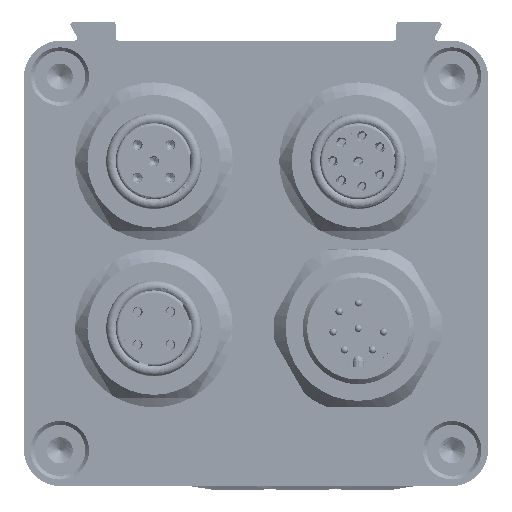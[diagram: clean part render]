
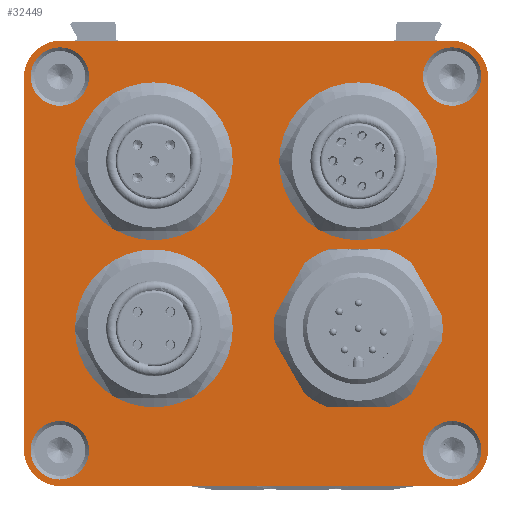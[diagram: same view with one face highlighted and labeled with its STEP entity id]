
A CAD part, front view. The second image highlights one B-rep face of the part: STEP entity #32449.
In plain terms, the highlighted planar face has unit normal (0, -1, 0).
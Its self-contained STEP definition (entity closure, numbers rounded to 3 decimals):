
#31689=CARTESIAN_POINT('',(21.,0.,-20.));
#31690=DIRECTION('',(0.,-1.,0.));
#31691=DIRECTION('',(0.,0.,-1.));
#31692=AXIS2_PLACEMENT_3D('',#31689,#31690,#31691);
#31697=DIRECTION('',(1.,0.,0.));
#31698=VECTOR('',#31697,42.);
#31699=CARTESIAN_POINT('',(-21.,0.,-24.));
#31700=LINE('',#31699,#31698);
#31704=CARTESIAN_POINT('',(-21.,0.,-20.));
#31705=DIRECTION('',(0.,-1.,0.));
#31706=DIRECTION('',(-1.,0.,0.));
#31707=AXIS2_PLACEMENT_3D('',#31704,#31705,#31706);
#31712=DIRECTION('',(0.,0.,-1.));
#31713=VECTOR('',#31712,40.);
#31714=CARTESIAN_POINT('',(-25.,0.,20.));
#31715=LINE('',#31714,#31713);
#31719=CARTESIAN_POINT('',(-21.,0.,20.));
#31720=DIRECTION('',(0.,-1.,0.));
#31721=DIRECTION('',(0.,0.,1.));
#31722=AXIS2_PLACEMENT_3D('',#31719,#31720,#31721);
#31727=CARTESIAN_POINT('',(21.,0.,20.));
#31728=DIRECTION('',(0.,-1.,0.));
#31729=DIRECTION('',(1.,0.,0.));
#31730=AXIS2_PLACEMENT_3D('',#31727,#31728,#31729);
#31735=CARTESIAN_POINT('',(-11.,0.,11.));
#31736=DIRECTION('',(0.,1.,0.));
#31737=DIRECTION('',(0.,0.,1.));
#31738=AXIS2_PLACEMENT_3D('',#31735,#31736,#31737);
#31743=CARTESIAN_POINT('',(-11.,0.,11.));
#31744=DIRECTION('',(0.,1.,0.));
#31745=DIRECTION('',(0.,0.,-1.));
#31746=AXIS2_PLACEMENT_3D('',#31743,#31744,#31745);
#31751=CARTESIAN_POINT('',(-11.,0.,-7.));
#31752=DIRECTION('',(0.,1.,0.));
#31753=DIRECTION('',(0.,0.,1.));
#31754=AXIS2_PLACEMENT_3D('',#31751,#31752,#31753);
#31759=CARTESIAN_POINT('',(-11.,0.,-7.));
#31760=DIRECTION('',(0.,1.,0.));
#31761=DIRECTION('',(0.,0.,-1.));
#31762=AXIS2_PLACEMENT_3D('',#31759,#31760,#31761);
#31767=CARTESIAN_POINT('',(-21.125,0.,20.125));
#31768=DIRECTION('',(0.,1.,0.));
#31769=DIRECTION('',(0.,0.,1.));
#31770=AXIS2_PLACEMENT_3D('',#31767,#31768,#31769);
#31775=CARTESIAN_POINT('',(-21.125,0.,20.125));
#31776=DIRECTION('',(0.,1.,0.));
#31777=DIRECTION('',(0.,0.,-1.));
#31778=AXIS2_PLACEMENT_3D('',#31775,#31776,#31777);
#31783=CARTESIAN_POINT('',(21.125,0.,20.125));
#31784=DIRECTION('',(0.,1.,0.));
#31785=DIRECTION('',(0.,0.,1.));
#31786=AXIS2_PLACEMENT_3D('',#31783,#31784,#31785);
#31791=CARTESIAN_POINT('',(21.125,0.,20.125));
#31792=DIRECTION('',(0.,1.,0.));
#31793=DIRECTION('',(0.,0.,-1.));
#31794=AXIS2_PLACEMENT_3D('',#31791,#31792,#31793);
#31799=CARTESIAN_POINT('',(21.125,0.,-20.125));
#31800=DIRECTION('',(0.,1.,0.));
#31801=DIRECTION('',(0.,0.,1.));
#31802=AXIS2_PLACEMENT_3D('',#31799,#31800,#31801);
#31807=CARTESIAN_POINT('',(21.125,0.,-20.125));
#31808=DIRECTION('',(0.,1.,0.));
#31809=DIRECTION('',(0.,0.,-1.));
#31810=AXIS2_PLACEMENT_3D('',#31807,#31808,#31809);
#31815=CARTESIAN_POINT('',(-21.125,0.,-20.125));
#31816=DIRECTION('',(0.,1.,0.));
#31817=DIRECTION('',(0.,0.,1.));
#31818=AXIS2_PLACEMENT_3D('',#31815,#31816,#31817);
#31823=CARTESIAN_POINT('',(-21.125,0.,-20.125));
#31824=DIRECTION('',(0.,1.,0.));
#31825=DIRECTION('',(0.,0.,-1.));
#31826=AXIS2_PLACEMENT_3D('',#31823,#31824,#31825);
#31831=CARTESIAN_POINT('',(11.,0.,-7.));
#31832=DIRECTION('',(0.,1.,0.));
#31833=DIRECTION('',(0.,0.,1.));
#31834=AXIS2_PLACEMENT_3D('',#31831,#31832,#31833);
#31839=CARTESIAN_POINT('',(11.,0.,-7.));
#31840=DIRECTION('',(0.,1.,0.));
#31841=DIRECTION('',(0.,0.,-1.));
#31842=AXIS2_PLACEMENT_3D('',#31839,#31840,#31841);
#31847=CARTESIAN_POINT('',(11.,0.,11.));
#31848=DIRECTION('',(0.,1.,0.));
#31849=DIRECTION('',(0.,0.,1.));
#31850=AXIS2_PLACEMENT_3D('',#31847,#31848,#31849);
#31855=CARTESIAN_POINT('',(11.,0.,11.));
#31856=DIRECTION('',(0.,1.,0.));
#31857=DIRECTION('',(0.,0.,-1.));
#31858=AXIS2_PLACEMENT_3D('',#31855,#31856,#31857);
#31863=DIRECTION('',(0.,0.,-1.));
#31864=VECTOR('',#31863,40.);
#31865=CARTESIAN_POINT('',(25.,0.,20.));
#31866=LINE('',#31865,#31864);
#31884=DIRECTION('',(1.,0.,0.));
#31885=VECTOR('',#31884,42.);
#31886=CARTESIAN_POINT('',(-21.,0.,24.));
#31887=LINE('',#31886,#31885);
#32169=CARTESIAN_POINT('',(-21.125,0.,-16.975));
#32170=CARTESIAN_POINT('',(-21.125,0.,-23.275));
#32171=VERTEX_POINT('',#32169);
#32172=VERTEX_POINT('',#32170);
#32175=CARTESIAN_POINT('',(25.,0.,20.));
#32176=CARTESIAN_POINT('',(25.,0.,-20.));
#32177=VERTEX_POINT('',#32175);
#32178=VERTEX_POINT('',#32176);
#32183=CARTESIAN_POINT('',(11.,0.,-13.));
#32185=VERTEX_POINT('',#32183);
#32199=CARTESIAN_POINT('',(11.,0.,17.));
#32200=CARTESIAN_POINT('',(11.,0.,5.));
#32201=VERTEX_POINT('',#32199);
#32202=VERTEX_POINT('',#32200);
#32203=CARTESIAN_POINT('',(-21.,0.,24.));
#32204=CARTESIAN_POINT('',(-25.,0.,20.));
#32205=VERTEX_POINT('',#32203);
#32206=VERTEX_POINT('',#32204);
#32211=CARTESIAN_POINT('',(-25.,0.,-20.));
#32212=VERTEX_POINT('',#32211);
#32213=CARTESIAN_POINT('',(-21.,0.,-24.));
#32214=VERTEX_POINT('',#32213);
#32219=CARTESIAN_POINT('',(-11.,0.,5.));
#32220=CARTESIAN_POINT('',(-11.,0.,17.));
#32221=VERTEX_POINT('',#32219);
#32222=VERTEX_POINT('',#32220);
#32223=CARTESIAN_POINT('',(-21.125,0.,23.275));
#32225=VERTEX_POINT('',#32223);
#32233=CARTESIAN_POINT('',(11.,0.,-1.));
#32234=VERTEX_POINT('',#32233);
#32235=CARTESIAN_POINT('',(21.125,0.,23.275));
#32236=VERTEX_POINT('',#32235);
#32241=CARTESIAN_POINT('',(21.125,0.,16.975));
#32242=VERTEX_POINT('',#32241);
#32247=CARTESIAN_POINT('',(-11.,0.,-13.));
#32248=VERTEX_POINT('',#32247);
#32255=CARTESIAN_POINT('',(-21.125,0.,16.975));
#32256=VERTEX_POINT('',#32255);
#32257=CARTESIAN_POINT('',(21.125,0.,-23.275));
#32258=CARTESIAN_POINT('',(21.125,0.,-16.975));
#32259=VERTEX_POINT('',#32257);
#32260=VERTEX_POINT('',#32258);
#32263=CARTESIAN_POINT('',(-11.,0.,-1.));
#32264=VERTEX_POINT('',#32263);
#32265=CARTESIAN_POINT('',(21.,0.,-24.));
#32266=VERTEX_POINT('',#32265);
#32267=CARTESIAN_POINT('',(21.,0.,24.));
#32268=VERTEX_POINT('',#32267);
#32379=CARTESIAN_POINT('',(-21.,0.,-20.));
#32380=DIRECTION('',(0.,-1.,0.));
#32381=DIRECTION('',(0.,0.,-1.));
#32382=AXIS2_PLACEMENT_3D('',#32379,#32380,#32381);
#32383=PLANE('',#32382);
#32385=ORIENTED_EDGE('',*,*,#32384,.T.);
#32387=ORIENTED_EDGE('',*,*,#32386,.F.);
#32389=ORIENTED_EDGE('',*,*,#32388,.F.);
#32391=ORIENTED_EDGE('',*,*,#32390,.F.);
#32392=ORIENTED_EDGE('',*,*,#32369,.F.);
#32394=ORIENTED_EDGE('',*,*,#32393,.F.);
#32396=ORIENTED_EDGE('',*,*,#32395,.T.);
#32398=ORIENTED_EDGE('',*,*,#32397,.F.);
#32399=EDGE_LOOP('',(#32385,#32387,#32389,#32391,#32392,#32394,#32396,#32398));
#32400=FACE_OUTER_BOUND('',#32399,.F.);
#32402=ORIENTED_EDGE('',*,*,#32401,.F.);
#32404=ORIENTED_EDGE('',*,*,#32403,.F.);
#32405=EDGE_LOOP('',(#32402,#32404));
#32406=FACE_BOUND('',#32405,.F.);
#32408=ORIENTED_EDGE('',*,*,#32407,.F.);
#32410=ORIENTED_EDGE('',*,*,#32409,.F.);
#32411=EDGE_LOOP('',(#32408,#32410));
#32412=FACE_BOUND('',#32411,.F.);
#32414=ORIENTED_EDGE('',*,*,#32413,.F.);
#32416=ORIENTED_EDGE('',*,*,#32415,.F.);
#32417=EDGE_LOOP('',(#32414,#32416));
#32418=FACE_BOUND('',#32417,.F.);
#32420=ORIENTED_EDGE('',*,*,#32419,.F.);
#32422=ORIENTED_EDGE('',*,*,#32421,.F.);
#32423=EDGE_LOOP('',(#32420,#32422));
#32424=FACE_BOUND('',#32423,.F.);
#32426=ORIENTED_EDGE('',*,*,#32425,.F.);
#32428=ORIENTED_EDGE('',*,*,#32427,.F.);
#32429=EDGE_LOOP('',(#32426,#32428));
#32430=FACE_BOUND('',#32429,.F.);
#32432=ORIENTED_EDGE('',*,*,#32431,.F.);
#32434=ORIENTED_EDGE('',*,*,#32433,.F.);
#32435=EDGE_LOOP('',(#32432,#32434));
#32436=FACE_BOUND('',#32435,.F.);
#32438=ORIENTED_EDGE('',*,*,#32437,.F.);
#32440=ORIENTED_EDGE('',*,*,#32439,.F.);
#32441=EDGE_LOOP('',(#32438,#32440));
#32442=FACE_BOUND('',#32441,.F.);
#32444=ORIENTED_EDGE('',*,*,#32443,.F.);
#32446=ORIENTED_EDGE('',*,*,#32445,.F.);
#32447=EDGE_LOOP('',(#32444,#32446));
#32448=FACE_BOUND('',#32447,.F.);
#31693=CIRCLE('',#31692,4.);
#31708=CIRCLE('',#31707,4.);
#31723=CIRCLE('',#31722,4.);
#31731=CIRCLE('',#31730,4.);
#31739=CIRCLE('',#31738,6.);
#31747=CIRCLE('',#31746,6.);
#31755=CIRCLE('',#31754,6.);
#31763=CIRCLE('',#31762,6.);
#31771=CIRCLE('',#31770,3.15);
#31779=CIRCLE('',#31778,3.15);
#31787=CIRCLE('',#31786,3.15);
#31795=CIRCLE('',#31794,3.15);
#31803=CIRCLE('',#31802,3.15);
#31811=CIRCLE('',#31810,3.15);
#31819=CIRCLE('',#31818,3.15);
#31827=CIRCLE('',#31826,3.15);
#31835=CIRCLE('',#31834,6.);
#31843=CIRCLE('',#31842,6.);
#31851=CIRCLE('',#31850,6.);
#31859=CIRCLE('',#31858,6.);
#32369=EDGE_CURVE('',#32206,#32212,#31715,.T.);
#32384=EDGE_CURVE('',#32177,#32178,#31866,.T.);
#32386=EDGE_CURVE('',#32266,#32178,#31693,.T.);
#32388=EDGE_CURVE('',#32214,#32266,#31700,.T.);
#32390=EDGE_CURVE('',#32212,#32214,#31708,.T.);
#32393=EDGE_CURVE('',#32205,#32206,#31723,.T.);
#32395=EDGE_CURVE('',#32205,#32268,#31887,.T.);
#32397=EDGE_CURVE('',#32177,#32268,#31731,.T.);
#32401=EDGE_CURVE('',#32222,#32221,#31739,.T.);
#32403=EDGE_CURVE('',#32221,#32222,#31747,.T.);
#32407=EDGE_CURVE('',#32264,#32248,#31755,.T.);
#32409=EDGE_CURVE('',#32248,#32264,#31763,.T.);
#32413=EDGE_CURVE('',#32225,#32256,#31771,.T.);
#32415=EDGE_CURVE('',#32256,#32225,#31779,.T.);
#32419=EDGE_CURVE('',#32236,#32242,#31787,.T.);
#32421=EDGE_CURVE('',#32242,#32236,#31795,.T.);
#32425=EDGE_CURVE('',#32260,#32259,#31803,.T.);
#32427=EDGE_CURVE('',#32259,#32260,#31811,.T.);
#32431=EDGE_CURVE('',#32171,#32172,#31819,.T.);
#32433=EDGE_CURVE('',#32172,#32171,#31827,.T.);
#32437=EDGE_CURVE('',#32234,#32185,#31835,.T.);
#32439=EDGE_CURVE('',#32185,#32234,#31843,.T.);
#32443=EDGE_CURVE('',#32201,#32202,#31851,.T.);
#32445=EDGE_CURVE('',#32202,#32201,#31859,.T.);
#32449=ADVANCED_FACE('',(#32400,#32406,#32412,#32418,#32424,#32430,#32436,
#32442,#32448),#32383,.T.);
